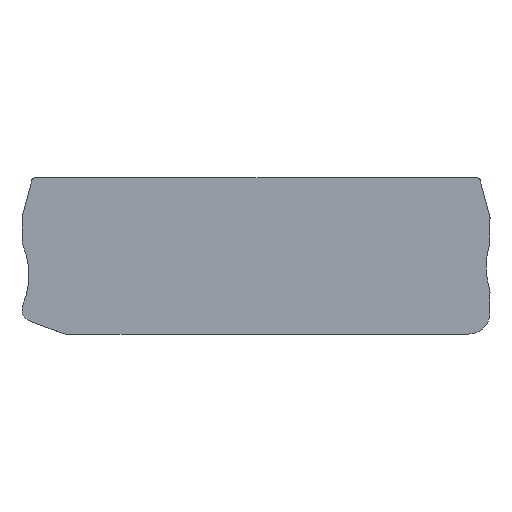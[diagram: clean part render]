
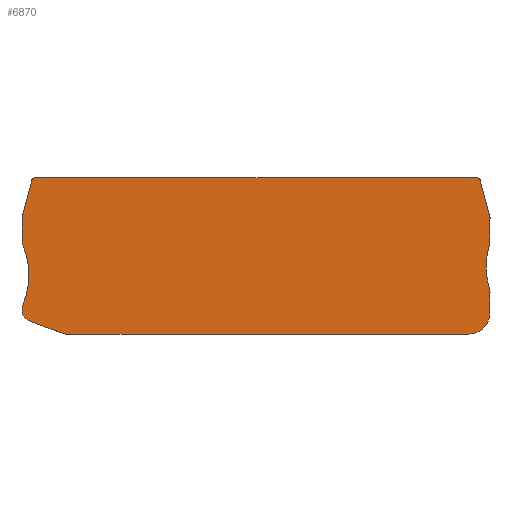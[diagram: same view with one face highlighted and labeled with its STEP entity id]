
A CAD part, top view. The second image highlights one B-rep face of the part: STEP entity #6870.
In plain terms, the highlighted planar face has unit normal (0, 0, 1) as drawn and (0, 0, -1) by its records, which use the part's own axes.
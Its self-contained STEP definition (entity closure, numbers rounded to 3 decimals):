
#210=CARTESIAN_POINT('',(-34.168,-16.531,53.17));
#220=VERTEX_POINT('',#210);
#250=CARTESIAN_POINT('',(-33.668,-16.531,53.17));
#260=DIRECTION('',(0.,0.,-1.));
#270=DIRECTION('',(-1.,0.,0.));
#280=AXIS2_PLACEMENT_3D('',#250,#260,#270);
#290=CIRCLE('',#280,0.5);
#300=CARTESIAN_POINT('',(-34.151,-16.402,53.17));
#310=VERTEX_POINT('',#300);
#320=EDGE_CURVE('',#220,#310,#290,.T.);
#610=CARTESIAN_POINT('',(-34.087,-21.467,53.17));
#620=VERTEX_POINT('',#610);
#650=CARTESIAN_POINT('',(-32.168,-20.903,53.17));
#660=DIRECTION('',(0.,0.,1.));
#670=DIRECTION('',(1.,0.,0.));
#680=AXIS2_PLACEMENT_3D('',#650,#660,#670);
#690=CIRCLE('',#680,2.);
#700=CARTESIAN_POINT('',(-34.168,-20.903,53.17));
#710=VERTEX_POINT('',#700);
#720=EDGE_CURVE('',#710,#620,#690,.T.);
#2980=CARTESIAN_POINT('',(-34.168,-12.13,53.17));
#2990=DIRECTION('',(0.,-1.,0.));
#3000=VECTOR('',#2990,1.);
#3010=LINE('',#2980,#3000);
#3020=EDGE_CURVE('',#220,#710,#3010,.T.);
#3250=CARTESIAN_POINT('',(-34.168,-34.2,53.17));
#3260=VERTEX_POINT('',#3250);
#3290=CARTESIAN_POINT('',(-34.168,-12.13,53.17));
#3300=DIRECTION('',(0.,-1.,0.));
#3310=VECTOR('',#3300,1.);
#3320=LINE('',#3290,#3310);
#3330=CARTESIAN_POINT('',(-34.168,-30.497,53.17));
#3340=VERTEX_POINT('',#3330);
#3350=EDGE_CURVE('',#3340,#3260,#3320,.T.);
#3580=CARTESIAN_POINT('',(44.758,-36.2,53.17));
#3590=DIRECTION('',(0.,0.,-1.));
#3600=DIRECTION('',(-1.,0.,0.));
#3610=AXIS2_PLACEMENT_3D('',#3580,#3590,#3600);
#3620=CIRCLE('',#3610,2.);
#3630=CARTESIAN_POINT('',(45.476,-38.067,53.17));
#3640=VERTEX_POINT('',#3630);
#3650=CARTESIAN_POINT('',(44.758,-38.2,53.17));
#3660=VERTEX_POINT('',#3650);
#3670=EDGE_CURVE('',#3640,#3660,#3620,.T.);
#4020=CARTESIAN_POINT('',(52.932,-33.604,53.17));
#4030=VERTEX_POINT('',#4020);
#4060=CARTESIAN_POINT('',(52.932,-12.13,53.17));
#4070=DIRECTION('',(0.,1.,0.));
#4080=VECTOR('',#4070,1.);
#4090=LINE('',#4060,#4080);
#4100=CARTESIAN_POINT('',(52.932,-33.826,53.17));
#4110=VERTEX_POINT('',#4100);
#4120=EDGE_CURVE('',#4110,#4030,#4090,.T.);
#4360=CARTESIAN_POINT('',(50.932,-33.826,53.17));
#4370=DIRECTION('',(0.,0.,1.));
#4380=DIRECTION('',(1.,0.,0.));
#4390=AXIS2_PLACEMENT_3D('',#4360,#4370,#4380);
#4400=CIRCLE('',#4390,2.);
#4410=CARTESIAN_POINT('',(51.65,-35.693,53.17));
#4420=VERTEX_POINT('',#4410);
#4430=EDGE_CURVE('',#4420,#4110,#4400,.T.);
#4720=CARTESIAN_POINT('',(-32.307,-9.521,53.17));
#4730=VERTEX_POINT('',#4720);
#4760=CARTESIAN_POINT('',(-31.824,-9.65,53.17));
#4770=DIRECTION('',(0.,0.,1.));
#4780=DIRECTION('',(1.,0.,0.));
#4790=AXIS2_PLACEMENT_3D('',#4760,#4770,#4780);
#4800=CIRCLE('',#4790,0.5);
#4810=CARTESIAN_POINT('',(-31.824,-9.15,53.17));
#4820=VERTEX_POINT('',#4810);
#4830=EDGE_CURVE('',#4820,#4730,#4800,.T.);
#5100=CARTESIAN_POINT('',(52.932,-16.531,53.17));
#5110=VERTEX_POINT('',#5100);
#5140=CARTESIAN_POINT('',(52.932,-12.13,53.17));
#5150=DIRECTION('',(0.,1.,0.));
#5160=VECTOR('',#5150,1.);
#5170=LINE('',#5140,#5160);
#5180=CARTESIAN_POINT('',(52.932,-20.796,53.17));
#5190=VERTEX_POINT('',#5180);
#5200=EDGE_CURVE('',#5190,#5110,#5170,.T.);
#5450=CARTESIAN_POINT('',(11.446,-9.15,53.17));
#5460=DIRECTION('',(-1.,0.,0.));
#5470=VECTOR('',#5460,1.);
#5480=LINE('',#5450,#5470);
#5490=CARTESIAN_POINT('',(50.588,-9.15,53.17));
#5500=VERTEX_POINT('',#5490);
#5510=EDGE_CURVE('',#5500,#4820,#5480,.T.);
#5700=CARTESIAN_POINT('',(0.967,-15.506,53.17));
#5710=DIRECTION('',(0.,0.,-1.));
#5720=DIRECTION('',(-1.,0.,0.));
#5730=AXIS2_PLACEMENT_3D('',#5700,#5710,#5720);
#5740=PLANE('',#5730);
#5750=ORIENTED_EDGE('',*,*,#4430,.F.);
#5760=ORIENTED_EDGE('',*,*,#4120,.F.);
#5770=CARTESIAN_POINT('',(50.932,-33.604,53.17));
#5780=DIRECTION('',(0.,0.,1.));
#5790=DIRECTION('',(1.,0.,0.));
#5800=AXIS2_PLACEMENT_3D('',#5770,#5780,#5790);
#5810=CIRCLE('',#5800,2.);
#5820=CARTESIAN_POINT('',(52.785,-32.85,53.17));
#5830=VERTEX_POINT('',#5820);
#5840=EDGE_CURVE('',#4030,#5830,#5810,.T.);
#5850=ORIENTED_EDGE('',*,*,#5840,.F.);
#5860=CARTESIAN_POINT('',(66.68,-27.2,53.17));
#5870=DIRECTION('',(0.,0.,1.));
#5880=DIRECTION('',(1.,0.,0.));
#5890=AXIS2_PLACEMENT_3D('',#5860,#5870,#5880);
#5900=CIRCLE('',#5890,15.);
#5910=CARTESIAN_POINT('',(51.68,-27.2,53.17));
#5920=VERTEX_POINT('',#5910);
#5930=EDGE_CURVE('',#5920,#5830,#5900,.T.);
#5940=ORIENTED_EDGE('',*,*,#5930,.T.);
#5950=CARTESIAN_POINT('',(52.785,-21.55,53.17));
#5960=VERTEX_POINT('',#5950);
#5970=EDGE_CURVE('',#5960,#5920,#5900,.T.);
#5980=ORIENTED_EDGE('',*,*,#5970,.T.);
#5990=CARTESIAN_POINT('',(50.932,-20.796,53.17));
#6000=DIRECTION('',(0.,0.,1.));
#6010=DIRECTION('',(1.,0.,0.));
#6020=AXIS2_PLACEMENT_3D('',#5990,#6000,#6010);
#6030=CIRCLE('',#6020,2.);
#6040=EDGE_CURVE('',#5960,#5190,#6030,.T.);
#6050=ORIENTED_EDGE('',*,*,#6040,.F.);
#6060=ORIENTED_EDGE('',*,*,#5200,.F.);
#6070=CARTESIAN_POINT('',(52.432,-16.531,53.17));
#6080=DIRECTION('',(0.,0.,-1.));
#6090=DIRECTION('',(-1.,0.,0.));
#6100=AXIS2_PLACEMENT_3D('',#6070,#6080,#6090);
#6110=CIRCLE('',#6100,0.5);
#6120=CARTESIAN_POINT('',(52.915,-16.402,53.17));
#6130=VERTEX_POINT('',#6120);
#6140=EDGE_CURVE('',#6130,#5110,#6110,.T.);
#6150=ORIENTED_EDGE('',*,*,#6140,.T.);
#6160=CARTESIAN_POINT('',(51.77,-12.13,53.17));
#6170=DIRECTION('',(-0.259,0.966,0.));
#6180=VECTOR('',#6170,1.);
#6190=LINE('',#6160,#6180);
#6200=CARTESIAN_POINT('',(51.071,-9.521,53.17));
#6210=VERTEX_POINT('',#6200);
#6220=EDGE_CURVE('',#6130,#6210,#6190,.T.);
#6230=ORIENTED_EDGE('',*,*,#6220,.F.);
#6240=CARTESIAN_POINT('',(50.588,-9.65,53.17));
#6250=DIRECTION('',(0.,0.,1.));
#6260=DIRECTION('',(1.,0.,0.));
#6270=AXIS2_PLACEMENT_3D('',#6240,#6250,#6260);
#6280=CIRCLE('',#6270,0.5);
#6290=EDGE_CURVE('',#6210,#5500,#6280,.T.);
#6300=ORIENTED_EDGE('',*,*,#6290,.F.);
#6310=ORIENTED_EDGE('',*,*,#5510,.F.);
#6320=ORIENTED_EDGE('',*,*,#4830,.F.);
#6330=CARTESIAN_POINT('',(-33.006,-12.13,53.17));
#6340=DIRECTION('',(-0.259,-0.966,0.));
#6350=VECTOR('',#6340,1.);
#6360=LINE('',#6330,#6350);
#6370=EDGE_CURVE('',#4730,#310,#6360,.T.);
#6380=ORIENTED_EDGE('',*,*,#6370,.F.);
#6390=ORIENTED_EDGE('',*,*,#320,.T.);
#6400=ORIENTED_EDGE('',*,*,#3020,.F.);
#6410=ORIENTED_EDGE('',*,*,#720,.F.);
#6420=CARTESIAN_POINT('',(-48.477,-25.7,53.17));
#6430=DIRECTION('',(0.,0.,1.));
#6440=DIRECTION('',(1.,0.,0.));
#6450=AXIS2_PLACEMENT_3D('',#6420,#6430,#6440);
#6460=CIRCLE('',#6450,15.);
#6470=CARTESIAN_POINT('',(-33.477,-25.7,53.17));
#6480=VERTEX_POINT('',#6470);
#6490=EDGE_CURVE('',#6480,#620,#6460,.T.);
#6500=ORIENTED_EDGE('',*,*,#6490,.T.);
#6510=CARTESIAN_POINT('',(-34.087,-29.933,53.17));
#6520=VERTEX_POINT('',#6510);
#6530=EDGE_CURVE('',#6520,#6480,#6460,.T.);
#6540=ORIENTED_EDGE('',*,*,#6530,.T.);
#6550=CARTESIAN_POINT('',(-32.168,-30.497,53.17));
#6560=DIRECTION('',(0.,0.,1.));
#6570=DIRECTION('',(1.,0.,0.));
#6580=AXIS2_PLACEMENT_3D('',#6550,#6560,#6570);
#6590=CIRCLE('',#6580,2.);
#6600=EDGE_CURVE('',#6520,#3340,#6590,.T.);
#6610=ORIENTED_EDGE('',*,*,#6600,.F.);
#6620=ORIENTED_EDGE('',*,*,#3350,.F.);
#6630=CARTESIAN_POINT('',(-30.168,-34.2,53.17));
#6640=DIRECTION('',(0.,0.,1.));
#6650=DIRECTION('',(1.,0.,0.));
#6660=AXIS2_PLACEMENT_3D('',#6630,#6640,#6650);
#6670=CIRCLE('',#6660,4.);
#6680=CARTESIAN_POINT('',(-30.168,-38.2,53.17));
#6690=VERTEX_POINT('',#6680);
#6700=EDGE_CURVE('',#3260,#6690,#6670,.T.);
#6710=ORIENTED_EDGE('',*,*,#6700,.F.);
#6720=CARTESIAN_POINT('',(11.446,-38.2,53.17));
#6730=DIRECTION('',(1.,0.,0.));
#6740=VECTOR('',#6730,1.);
#6750=LINE('',#6720,#6740);
#6760=EDGE_CURVE('',#6690,#3660,#6750,.T.);
#6770=ORIENTED_EDGE('',*,*,#6760,.F.);
#6780=ORIENTED_EDGE('',*,*,#3670,.T.);
#6790=CARTESIAN_POINT('',(11.446,-51.15,53.17));
#6800=DIRECTION('',(-0.933,-0.359,0.));
#6810=VECTOR('',#6800,1.);
#6820=LINE('',#6790,#6810);
#6830=EDGE_CURVE('',#4420,#3640,#6820,.T.);
#6840=ORIENTED_EDGE('',*,*,#6830,.T.);
#6850=EDGE_LOOP('',(#6840,#6780,#6770,#6710,#6620,#6610,#6540,#6500,
#6410,#6400,#6390,#6380,#6320,#6310,#6300,#6230,#6150,#6060,#6050,#5980,
#5940,#5850,#5760,#5750));
#6860=FACE_OUTER_BOUND('',#6850,.T.);
#6870=ADVANCED_FACE('',(#6860),#5740,.T.);
